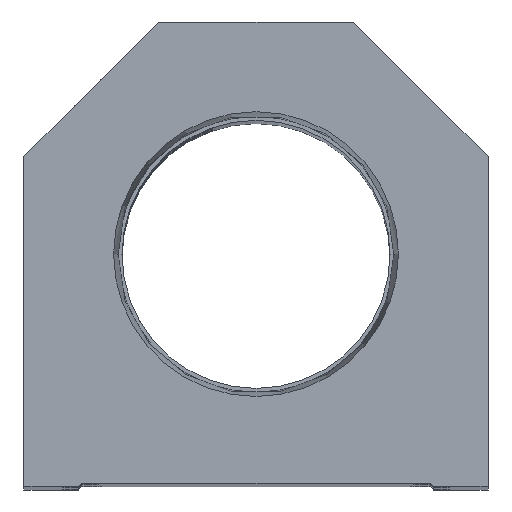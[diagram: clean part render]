
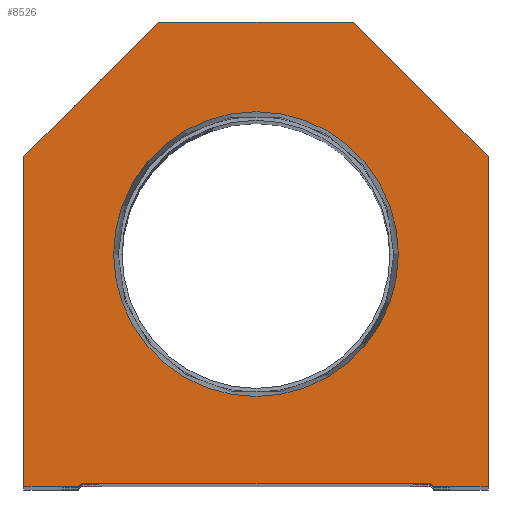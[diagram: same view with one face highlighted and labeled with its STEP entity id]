
A CAD part, top view. The second image highlights one B-rep face of the part: STEP entity #8526.
In plain terms, the highlighted planar face has unit normal (0, 0, 1).
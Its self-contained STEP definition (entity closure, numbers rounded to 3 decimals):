
#151 = CARTESIAN_POINT ( 'NONE',  ( 28.6, 0.5, 0. ) ) ;
#406 = VERTEX_POINT ( 'NONE', #7628 ) ;
#754 = VECTOR ( 'NONE', #9202, 1000. ) ;
#768 = ORIENTED_EDGE ( 'NONE', *, *, #19975, .T. ) ;
#1080 = CARTESIAN_POINT ( 'NONE',  ( 23.374, 38.1, 0. ) ) ;
#1553 = CARTESIAN_POINT ( 'NONE',  ( -28.6, 0.5, 0. ) ) ;
#1857 = DIRECTION ( 'NONE',  ( -1., 0., 0. ) ) ;
#1860 = VERTEX_POINT ( 'NONE', #11073 ) ;
#1962 = CARTESIAN_POINT ( 'NONE',  ( 28.6, 0., 0. ) ) ;
#2209 = ORIENTED_EDGE ( 'NONE', *, *, #13135, .T. ) ;
#2556 = VECTOR ( 'NONE', #18289, 1000. ) ;
#3358 = CARTESIAN_POINT ( 'NONE',  ( 29.1, 0., 0. ) ) ;
#3670 = CIRCLE ( 'NONE', #15469, 23.374 ) ;
#3708 = ORIENTED_EDGE ( 'NONE', *, *, #20099, .T. ) ;
#3725 = LINE ( 'NONE', #19861, #19178 ) ;
#4380 = CARTESIAN_POINT ( 'NONE',  ( -16., 76.2, 0. ) ) ;
#4545 = CARTESIAN_POINT ( 'NONE',  ( -38.1, 54.1, 0. ) ) ;
#4651 = DIRECTION ( 'NONE',  ( 0., 0., 1. ) ) ;
#4755 = AXIS2_PLACEMENT_3D ( 'NONE', #14816, #7306, #16385 ) ;
#4819 = PLANE ( 'NONE',  #4755 ) ;
#4928 = VECTOR ( 'NONE', #8085, 1000. ) ;
#5005 = CARTESIAN_POINT ( 'NONE',  ( -38.1, 0., 0. ) ) ;
#5363 = DIRECTION ( 'NONE',  ( 1., 0., 0. ) ) ;
#5565 = LINE ( 'NONE', #16308, #7102 ) ;
#6699 = EDGE_CURVE ( 'NONE', #1860, #16581, #3725, .T. ) ;
#6759 = ORIENTED_EDGE ( 'NONE', *, *, #13218, .T. ) ;
#7102 = VECTOR ( 'NONE', #11889, 1000. ) ;
#7188 = VECTOR ( 'NONE', #1857, 1000. ) ;
#7306 = DIRECTION ( 'NONE',  ( 0., 0., 1. ) ) ;
#7440 = VERTEX_POINT ( 'NONE', #17661 ) ;
#7628 = CARTESIAN_POINT ( 'NONE',  ( -28.6, 0.5, 0. ) ) ;
#7699 = ORIENTED_EDGE ( 'NONE', *, *, #10449, .F. ) ;
#7829 = VERTEX_POINT ( 'NONE', #17609 ) ;
#7926 = VERTEX_POINT ( 'NONE', #16134 ) ;
#8085 = DIRECTION ( 'NONE',  ( 0., -1., 0. ) ) ;
#8099 = LINE ( 'NONE', #18857, #11326 ) ;
#8313 = EDGE_CURVE ( 'NONE', #7440, #7926, #5565, .T. ) ;
#8369 = LINE ( 'NONE', #14801, #11345 ) ;
#8442 = CARTESIAN_POINT ( 'NONE',  ( 16., 76.2, 0. ) ) ;
#8526 = ADVANCED_FACE ( 'NONE', ( #12820, #19271 ), #4819, .T. ) ;
#9044 = LINE ( 'NONE', #12415, #16281 ) ;
#9202 = DIRECTION ( 'NONE',  ( 1., 0., 0. ) ) ;
#9506 = LINE ( 'NONE', #1553, #754 ) ;
#9632 = VERTEX_POINT ( 'NONE', #1080 ) ;
#9812 = EDGE_LOOP ( 'NONE', ( #12632, #10792, #768, #16760, #11973, #18066, #12315, #3708, #6759, #2209 ) ) ;
#10248 = DIRECTION ( 'NONE',  ( 0., 0., 1. ) ) ;
#10449 = EDGE_CURVE ( 'NONE', #7829, #9632, #16783, .T. ) ;
#10705 = EDGE_CURVE ( 'NONE', #7926, #11457, #8099, .T. ) ;
#10792 = ORIENTED_EDGE ( 'NONE', *, *, #20709, .T. ) ;
#11073 = CARTESIAN_POINT ( 'NONE',  ( -38.1, 0., 0. ) ) ;
#11188 = EDGE_CURVE ( 'NONE', #17710, #13587, #8369, .T. ) ;
#11326 = VECTOR ( 'NONE', #17463, 1000. ) ;
#11345 = VECTOR ( 'NONE', #14595, 1000. ) ;
#11457 = VERTEX_POINT ( 'NONE', #19936 ) ;
#11735 = DIRECTION ( 'NONE',  ( 1., 0., 0. ) ) ;
#11864 = ORIENTED_EDGE ( 'NONE', *, *, #15686, .F. ) ;
#11889 = DIRECTION ( 'NONE',  ( 0., 1., 0. ) ) ;
#11973 = ORIENTED_EDGE ( 'NONE', *, *, #13671, .T. ) ;
#12315 = ORIENTED_EDGE ( 'NONE', *, *, #10705, .T. ) ;
#12415 = CARTESIAN_POINT ( 'NONE',  ( -14.55, 14.55, 0. ) ) ;
#12632 = ORIENTED_EDGE ( 'NONE', *, *, #6699, .T. ) ;
#12820 = FACE_BOUND ( 'NONE', #18160, .T. ) ;
#13004 = LINE ( 'NONE', #5005, #4928 ) ;
#13065 = CARTESIAN_POINT ( 'NONE',  ( -29.1, 0., 0. ) ) ;
#13135 = EDGE_CURVE ( 'NONE', #19976, #1860, #13004, .T. ) ;
#13218 = EDGE_CURVE ( 'NONE', #17919, #19976, #15220, .T. ) ;
#13587 = VERTEX_POINT ( 'NONE', #3358 ) ;
#13671 = EDGE_CURVE ( 'NONE', #13587, #7440, #17910, .T. ) ;
#14595 = DIRECTION ( 'NONE',  ( 0.707, -0.707, 0. ) ) ;
#14801 = CARTESIAN_POINT ( 'NONE',  ( 14.55, 14.55, 0. ) ) ;
#14816 = CARTESIAN_POINT ( 'NONE',  ( 0., 0., 0. ) ) ;
#15220 = LINE ( 'NONE', #19865, #2556 ) ;
#15469 = AXIS2_PLACEMENT_3D ( 'NONE', #20268, #10248, #18586 ) ;
#15470 = DIRECTION ( 'NONE',  ( 0.707, 0.707, 0. ) ) ;
#15686 = EDGE_CURVE ( 'NONE', #9632, #7829, #3670, .T. ) ;
#16134 = CARTESIAN_POINT ( 'NONE',  ( 38.1, 54.1, 0. ) ) ;
#16281 = VECTOR ( 'NONE', #15470, 1000. ) ;
#16308 = CARTESIAN_POINT ( 'NONE',  ( 38.1, 0., 0. ) ) ;
#16324 = LINE ( 'NONE', #8442, #7188 ) ;
#16385 = DIRECTION ( 'NONE',  ( 1., 0., 0. ) ) ;
#16581 = VERTEX_POINT ( 'NONE', #13065 ) ;
#16760 = ORIENTED_EDGE ( 'NONE', *, *, #11188, .T. ) ;
#16783 = CIRCLE ( 'NONE', #19475, 23.374 ) ;
#17463 = DIRECTION ( 'NONE',  ( -0.707, 0.707, 0. ) ) ;
#17609 = CARTESIAN_POINT ( 'NONE',  ( -23.374, 38.1, 0. ) ) ;
#17661 = CARTESIAN_POINT ( 'NONE',  ( 38.1, 0., 0. ) ) ;
#17710 = VERTEX_POINT ( 'NONE', #151 ) ;
#17777 = VECTOR ( 'NONE', #5363, 1000. ) ;
#17910 = LINE ( 'NONE', #1962, #17777 ) ;
#17919 = VERTEX_POINT ( 'NONE', #4380 ) ;
#18066 = ORIENTED_EDGE ( 'NONE', *, *, #8313, .T. ) ;
#18160 = EDGE_LOOP ( 'NONE', ( #11864, #7699 ) ) ;
#18289 = DIRECTION ( 'NONE',  ( -0.707, -0.707, 0. ) ) ;
#18586 = DIRECTION ( 'NONE',  ( 1., 0., 0. ) ) ;
#18857 = CARTESIAN_POINT ( 'NONE',  ( 38.1, 54.1, 0. ) ) ;
#19178 = VECTOR ( 'NONE', #11735, 1000. ) ;
#19271 = FACE_OUTER_BOUND ( 'NONE', #9812, .T. ) ;
#19475 = AXIS2_PLACEMENT_3D ( 'NONE', #20695, #4651, #20478 ) ;
#19861 = CARTESIAN_POINT ( 'NONE',  ( -28.6, 0., 0. ) ) ;
#19865 = CARTESIAN_POINT ( 'NONE',  ( -38.1, 54.1, 0. ) ) ;
#19936 = CARTESIAN_POINT ( 'NONE',  ( 16., 76.2, 0. ) ) ;
#19975 = EDGE_CURVE ( 'NONE', #406, #17710, #9506, .T. ) ;
#19976 = VERTEX_POINT ( 'NONE', #4545 ) ;
#20099 = EDGE_CURVE ( 'NONE', #11457, #17919, #16324, .T. ) ;
#20268 = CARTESIAN_POINT ( 'NONE',  ( 0., 38.1, 0. ) ) ;
#20478 = DIRECTION ( 'NONE',  ( 1., 0., 0. ) ) ;
#20695 = CARTESIAN_POINT ( 'NONE',  ( 0., 38.1, 0. ) ) ;
#20709 = EDGE_CURVE ( 'NONE', #16581, #406, #9044, .T. ) ;
